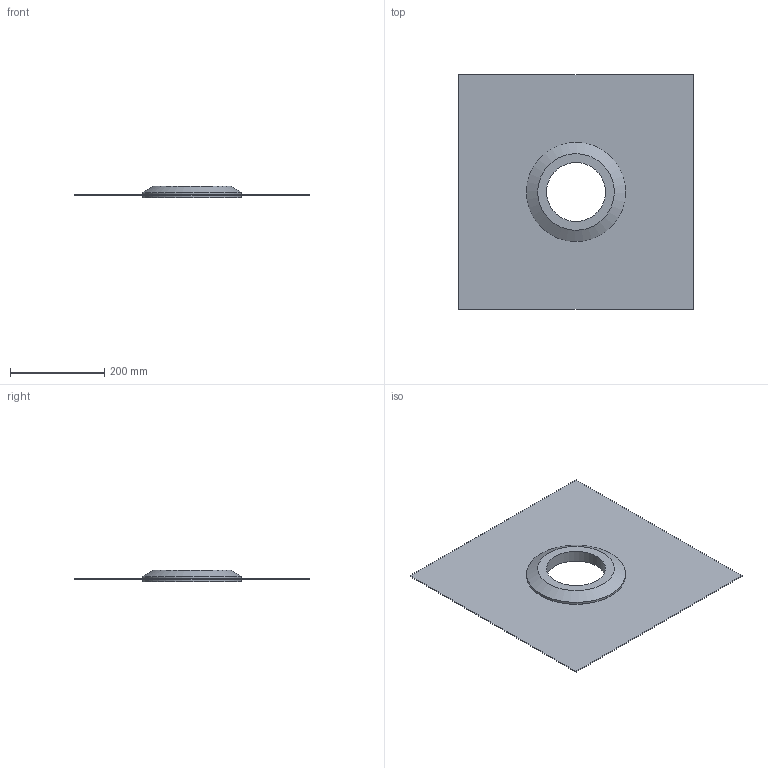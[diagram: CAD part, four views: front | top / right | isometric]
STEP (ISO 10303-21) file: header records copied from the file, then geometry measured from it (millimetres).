
FILE_DESCRIPTION(/* description */ (''),/* implementation_level */ '2;1');
FILE_NAME(/* name */ '368673.stp',/* time_stamp */ '2025-04-01T07:17:41+02:00',/* author */ ('JANAN'),/* organization */ (''),/* preprocessor_version */ 'ST-DEVELOPER v19.2',/* originating_system */ 'Autodesk Inventor 2023',/* authorisation */ '');
FILE_SCHEMA (('AUTOMOTIVE_DESIGN { 1 0 10303 214 3 1 1 }'));
Length unit declared in the file: millimetre
Products named in the file (1): tmp3BC8.tmp
Bounding box: 497.5 x 497.5 x 25 mm (x, y, z)
Volume: 759635.3 mm3; surface area: 556182.5 mm2
Topology: 2 solids, 2 shells, 16 faces, 29 edges, 19 vertices
Faces by surface type: plane 10, cylinder 5, cone 1
Full cylindrical faces by diameter (mm): 125 x1, 155 x2, 210 x2
Entity records: 471 total; most frequent: DIRECTION 74, CARTESIAN_POINT 65, ORIENTED_EDGE 58, EDGE_CURVE 29, AXIS2_PLACEMENT_3D 28, EDGE_LOOP 22, VERTEX_POINT 19, LINE 18
